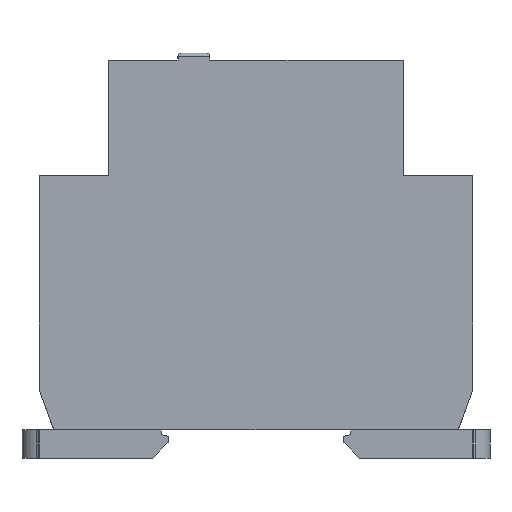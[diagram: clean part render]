
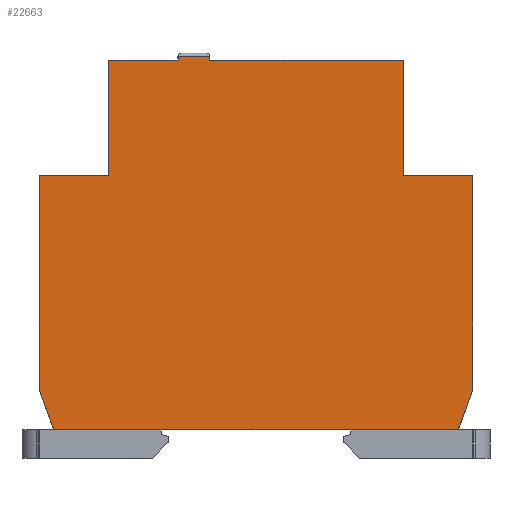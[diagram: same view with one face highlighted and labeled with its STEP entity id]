
A CAD part, left-side view. The second image highlights one B-rep face of the part: STEP entity #22663.
In plain terms, the highlighted planar face has unit normal (-1, 0, 0).
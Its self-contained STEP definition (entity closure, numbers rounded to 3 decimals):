
#703 = LINE ( 'NONE', #17444, #11564 ) ;
#777 = DIRECTION ( 'NONE',  ( 0., 0., -1. ) ) ;
#901 = CARTESIAN_POINT ( 'NONE',  ( 0., 15., 69. ) ) ;
#928 = ORIENTED_EDGE ( 'NONE', *, *, #12547, .T. ) ;
#932 = CARTESIAN_POINT ( 'NONE',  ( 0., 78., 49. ) ) ;
#1682 = CARTESIAN_POINT ( 'NONE',  ( 0., 54., 69.68 ) ) ;
#1801 = EDGE_CURVE ( 'NONE', #18597, #18662, #23513, .T. ) ;
#2030 = CARTESIAN_POINT ( 'NONE',  ( 0., 54., 69. ) ) ;
#2061 = EDGE_CURVE ( 'NONE', #22045, #2519, #21427, .T. ) ;
#2149 = DIRECTION ( 'NONE',  ( 0., -1., 0. ) ) ;
#2519 = VERTEX_POINT ( 'NONE', #9822 ) ;
#2941 = ORIENTED_EDGE ( 'NONE', *, *, #23329, .T. ) ;
#3080 = VERTEX_POINT ( 'NONE', #932 ) ;
#3081 = DIRECTION ( 'NONE',  ( 0., -1., 0. ) ) ;
#3129 = DIRECTION ( 'NONE',  ( 0., -0.342, 0.94 ) ) ;
#3243 = CARTESIAN_POINT ( 'NONE',  ( 0., 48.5, 69.68 ) ) ;
#3505 = ORIENTED_EDGE ( 'NONE', *, *, #10495, .F. ) ;
#3852 = LINE ( 'NONE', #2030, #15622 ) ;
#3998 = LINE ( 'NONE', #10961, #18721 ) ;
#4693 = CARTESIAN_POINT ( 'NONE',  ( 0., 3., 49. ) ) ;
#5150 = VECTOR ( 'NONE', #22505, 1000. ) ;
#5177 = VECTOR ( 'NONE', #3129, 1000. ) ;
#6047 = DIRECTION ( 'NONE',  ( 0., 0., -1. ) ) ;
#7601 = ORIENTED_EDGE ( 'NONE', *, *, #12826, .F. ) ;
#7634 = EDGE_LOOP ( 'NONE', ( #13860, #22579, #2941, #9600, #13268, #13187, #10678, #24069, #23064, #20994, #3505, #7601, #23409, #928 ) ) ;
#7733 = EDGE_CURVE ( 'NONE', #20012, #11449, #8320, .T. ) ;
#8074 = CARTESIAN_POINT ( 'NONE',  ( 0., 15., 49. ) ) ;
#8158 = LINE ( 'NONE', #15461, #21248 ) ;
#8320 = LINE ( 'NONE', #16312, #10865 ) ;
#8405 = VERTEX_POINT ( 'NONE', #11125 ) ;
#8841 = DIRECTION ( 'NONE',  ( 0., -1., 0. ) ) ;
#9123 = CARTESIAN_POINT ( 'NONE',  ( 0., 5.5, 5. ) ) ;
#9131 = VECTOR ( 'NONE', #11994, 1000. ) ;
#9212 = DIRECTION ( 'NONE',  ( 0., 0., -1. ) ) ;
#9491 = VECTOR ( 'NONE', #3081, 1000. ) ;
#9591 = EDGE_CURVE ( 'NONE', #21065, #2519, #3852, .T. ) ;
#9600 = ORIENTED_EDGE ( 'NONE', *, *, #15244, .F. ) ;
#9822 = CARTESIAN_POINT ( 'NONE',  ( 0., 54., 69. ) ) ;
#9965 = VERTEX_POINT ( 'NONE', #3243 ) ;
#10444 = VECTOR ( 'NONE', #8841, 1000. ) ;
#10495 = EDGE_CURVE ( 'NONE', #20881, #18597, #10549, .T. ) ;
#10542 = CARTESIAN_POINT ( 'NONE',  ( 0., 48.5, 69. ) ) ;
#10549 = LINE ( 'NONE', #901, #17226 ) ;
#10678 = ORIENTED_EDGE ( 'NONE', *, *, #14210, .T. ) ;
#10865 = VECTOR ( 'NONE', #19668, 1000. ) ;
#10961 = CARTESIAN_POINT ( 'NONE',  ( 0., 78., 49. ) ) ;
#11125 = CARTESIAN_POINT ( 'NONE',  ( 0., 66., 49. ) ) ;
#11449 = VERTEX_POINT ( 'NONE', #22728 ) ;
#11562 = VERTEX_POINT ( 'NONE', #9123 ) ;
#11564 = VECTOR ( 'NONE', #6047, 1000. ) ;
#11680 = DIRECTION ( 'NONE',  ( 0., 0., -1. ) ) ;
#11994 = DIRECTION ( 'NONE',  ( 0., -1., 0. ) ) ;
#12429 = VECTOR ( 'NONE', #18724, 1000. ) ;
#12507 = FACE_OUTER_BOUND ( 'NONE', #7634, .T. ) ;
#12547 = EDGE_CURVE ( 'NONE', #9965, #21065, #14812, .T. ) ;
#12814 = CARTESIAN_POINT ( 'NONE',  ( 0., 66., 69. ) ) ;
#12826 = EDGE_CURVE ( 'NONE', #13542, #20881, #20477, .T. ) ;
#12923 = CARTESIAN_POINT ( 'NONE',  ( 0., 15., 69. ) ) ;
#13187 = ORIENTED_EDGE ( 'NONE', *, *, #7733, .T. ) ;
#13268 = ORIENTED_EDGE ( 'NONE', *, *, #23747, .T. ) ;
#13376 = CARTESIAN_POINT ( 'NONE',  ( 0., 15., 69. ) ) ;
#13476 = CARTESIAN_POINT ( 'NONE',  ( 0., 3., 11.869 ) ) ;
#13542 = VERTEX_POINT ( 'NONE', #10542 ) ;
#13556 = DIRECTION ( 'NONE',  ( 0., 0., 1. ) ) ;
#13860 = ORIENTED_EDGE ( 'NONE', *, *, #9591, .T. ) ;
#14210 = EDGE_CURVE ( 'NONE', #11449, #11562, #22605, .T. ) ;
#14583 = CARTESIAN_POINT ( 'NONE',  ( 0., 54., 69.68 ) ) ;
#14617 = AXIS2_PLACEMENT_3D ( 'NONE', #16240, #15988, #23499 ) ;
#14778 = LINE ( 'NONE', #22555, #22200 ) ;
#14812 = LINE ( 'NONE', #14583, #12429 ) ;
#14982 = CARTESIAN_POINT ( 'NONE',  ( 0., 75.5, 5. ) ) ;
#15244 = EDGE_CURVE ( 'NONE', #3080, #8405, #3998, .T. ) ;
#15301 = VECTOR ( 'NONE', #13556, 1000. ) ;
#15461 = CARTESIAN_POINT ( 'NONE',  ( 0., 48.5, 70.18 ) ) ;
#15622 = VECTOR ( 'NONE', #11680, 1000. ) ;
#15988 = DIRECTION ( 'NONE',  ( -1., 0., 0. ) ) ;
#16096 = CARTESIAN_POINT ( 'NONE',  ( 0., 66., 69. ) ) ;
#16240 = CARTESIAN_POINT ( 'NONE',  ( 0., -2.871, 28. ) ) ;
#16312 = CARTESIAN_POINT ( 'NONE',  ( 0., 75.5, 5. ) ) ;
#17024 = EDGE_CURVE ( 'NONE', #9965, #13542, #8158, .T. ) ;
#17029 = LINE ( 'NONE', #23023, #15301 ) ;
#17105 = CARTESIAN_POINT ( 'NONE',  ( 0., 5.5, 5. ) ) ;
#17226 = VECTOR ( 'NONE', #777, 1000. ) ;
#17444 = CARTESIAN_POINT ( 'NONE',  ( 0., 78., 11.869 ) ) ;
#18135 = LINE ( 'NONE', #17105, #5177 ) ;
#18597 = VERTEX_POINT ( 'NONE', #8074 ) ;
#18662 = VERTEX_POINT ( 'NONE', #21293 ) ;
#18721 = VECTOR ( 'NONE', #2149, 1000. ) ;
#18724 = DIRECTION ( 'NONE',  ( 0., 1., 0. ) ) ;
#19112 = EDGE_CURVE ( 'NONE', #11562, #21128, #18135, .T. ) ;
#19561 = PLANE ( 'NONE',  #14617 ) ;
#19668 = DIRECTION ( 'NONE',  ( 0., -0.342, -0.94 ) ) ;
#19896 = CARTESIAN_POINT ( 'NONE',  ( 0., 78., 11.869 ) ) ;
#20012 = VERTEX_POINT ( 'NONE', #19896 ) ;
#20477 = LINE ( 'NONE', #12923, #10444 ) ;
#20881 = VERTEX_POINT ( 'NONE', #13376 ) ;
#20994 = ORIENTED_EDGE ( 'NONE', *, *, #1801, .F. ) ;
#21065 = VERTEX_POINT ( 'NONE', #1682 ) ;
#21117 = DIRECTION ( 'NONE',  ( 0., 0., -1. ) ) ;
#21128 = VERTEX_POINT ( 'NONE', #13476 ) ;
#21248 = VECTOR ( 'NONE', #21117, 1000. ) ;
#21293 = CARTESIAN_POINT ( 'NONE',  ( 0., 3., 49. ) ) ;
#21343 = EDGE_CURVE ( 'NONE', #21128, #18662, #17029, .T. ) ;
#21427 = LINE ( 'NONE', #16096, #9131 ) ;
#22045 = VERTEX_POINT ( 'NONE', #12814 ) ;
#22200 = VECTOR ( 'NONE', #9212, 1000. ) ;
#22505 = DIRECTION ( 'NONE',  ( 0., -1., 0. ) ) ;
#22555 = CARTESIAN_POINT ( 'NONE',  ( 0., 66., 69. ) ) ;
#22579 = ORIENTED_EDGE ( 'NONE', *, *, #2061, .F. ) ;
#22605 = LINE ( 'NONE', #14982, #5150 ) ;
#22663 = ADVANCED_FACE ( 'NONE', ( #12507 ), #19561, .T. ) ;
#22728 = CARTESIAN_POINT ( 'NONE',  ( 0., 75.5, 5. ) ) ;
#23023 = CARTESIAN_POINT ( 'NONE',  ( 0., 3., 11.869 ) ) ;
#23064 = ORIENTED_EDGE ( 'NONE', *, *, #21343, .T. ) ;
#23329 = EDGE_CURVE ( 'NONE', #22045, #8405, #14778, .T. ) ;
#23409 = ORIENTED_EDGE ( 'NONE', *, *, #17024, .F. ) ;
#23499 = DIRECTION ( 'NONE',  ( 0., 0., -1. ) ) ;
#23513 = LINE ( 'NONE', #4693, #9491 ) ;
#23747 = EDGE_CURVE ( 'NONE', #3080, #20012, #703, .T. ) ;
#24069 = ORIENTED_EDGE ( 'NONE', *, *, #19112, .T. ) ;
